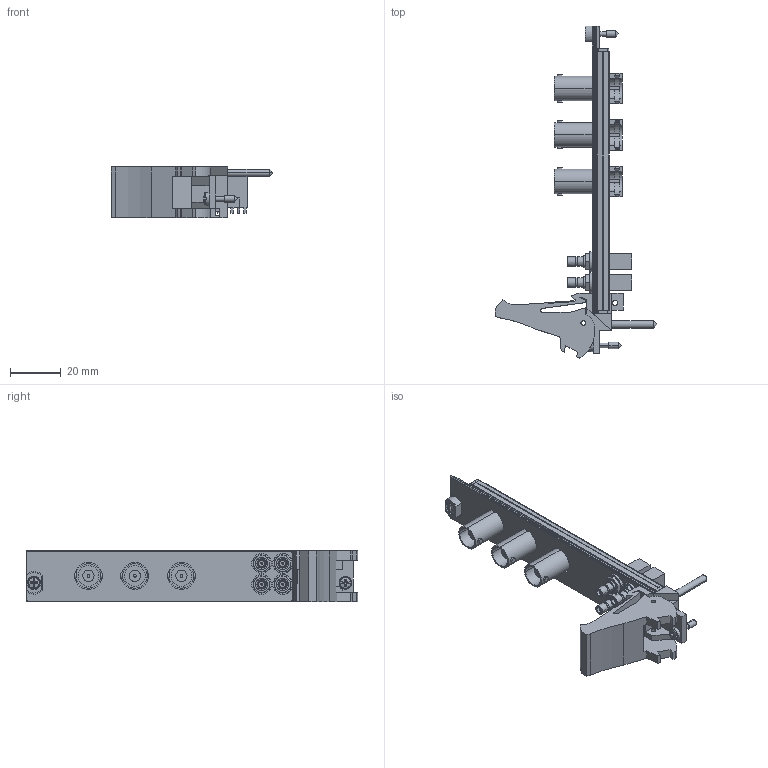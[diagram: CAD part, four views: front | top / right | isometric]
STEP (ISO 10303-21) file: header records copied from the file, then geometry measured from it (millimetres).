
FILE_DESCRIPTION((''),'2;1');
FILE_NAME('CU_PXIE-5160_2CH','2013-03-26T',('jjorden'),(''),'PRO/ENGINEER BY PARAMETRIC TECHNOLOGY CORPORATION, 2011490','PRO/ENGINEER BY PARAMETRIC TECHNOLOGY CORPORATION, 2011490','');
FILE_SCHEMA(('CONFIG_CONTROL_DESIGN'));
Length unit declared in the file: inch
Products named in the file (1): CU_PXIE-5160_2CH
Bounding box: 63.53 x 130.5 x 20.31 mm (x, y, z)
Volume: 18974.5 mm3; surface area: 23632.2 mm2
Topology: 5 solids, 5 shells, 967 faces, 2575 edges, 1629 vertices
Faces by surface type: plane 626, cylinder 281, cone 42, sphere 8, bspline 6, torus 4
Entity records: 33641 total; most frequent: CARTESIAN_POINT 9022, DIRECTION 5156, ORIENTED_EDGE 5134, EDGE_CURVE 2567, AXIS2_PLACEMENT_3D 1745, VECTOR 1666, LINE 1666, VERTEX_POINT 1648
